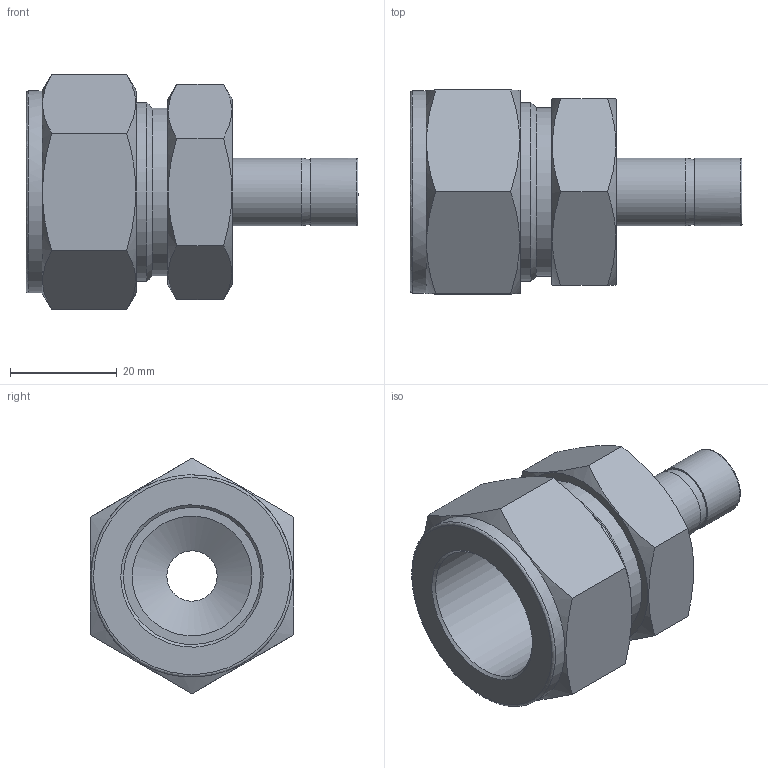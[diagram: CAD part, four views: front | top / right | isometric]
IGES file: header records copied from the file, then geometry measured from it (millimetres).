
Global section: file name: SR-16-8; native system: Autodesk Inventor 2016; preprocessor: unknown; author: DESIGNPC2; date: 20151113.084915; units: millimetre
Bounding box: 62.06 x 38.1 x 43.99 mm (x, y, z)
Volume: 26502.9 mm3; surface area: 11690.7 mm2
Topology: 1 solids, 1 shells, 37 faces, 106 edges, 76 vertices
Faces by surface type: bspline 37
